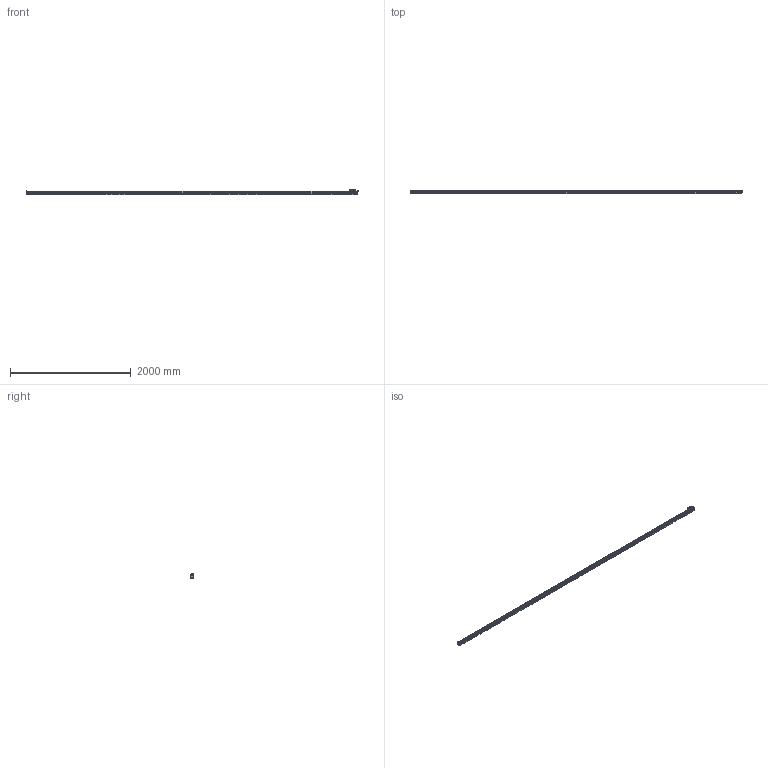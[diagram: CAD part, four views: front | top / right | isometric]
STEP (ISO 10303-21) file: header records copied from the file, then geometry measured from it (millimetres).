
FILE_DESCRIPTION(('Creo Elements/Direct Modeling STEP Export'),'2;1');
FILE_NAME('REGLA_L3_5240_T.stp','2021-02-04T13:04:03',(''),(''),'Creo Elements/Direct Modeling STEP processor for AP214 (Solid Model)','Creo Elements/Direct Modeling 19.0G 27-Nov-2017 (C) Parametric Technology GmbH','');
FILE_SCHEMA(('AUTOMOTIVE_DESIGN { 1 0 10303 214 1 1 1 1 }'));
Length unit declared in the file: millimetre
Products named in the file (3): CABEZA_L3_T_M6; PERFIL_L3_5240; MOD_L3_5240_T
Assembly tree (2 placements, depth 2):
  MOD_L3_5240_T
    PERFIL_L3_5240
    CABEZA_L3_T_M6
Bounding box: 5490 x 50 x 85 mm (x, y, z)
Volume: 14252680.3 mm3; surface area: 1591578.5 mm2
Topology: 2 solids, 2 shells, 2212 faces, 6350 edges, 4243 vertices
Faces by surface type: plane 1111, cylinder 763, cone 223, bspline 59, torus 50, extrusion 6
Entity records: 88467 total; most frequent: CARTESIAN_POINT 25367, ORIENTED_EDGE 12684, DIRECTION 11223, EDGE_CURVE 6342, VERTEX_POINT 4243, VECTOR 3987, LINE 3981, AXIS2_PLACEMENT_3D 3618
